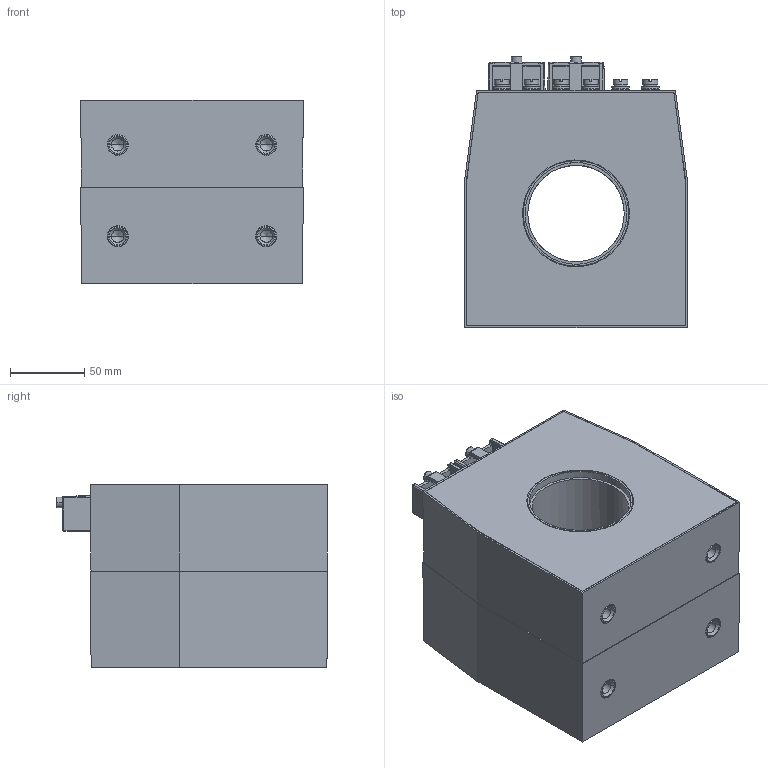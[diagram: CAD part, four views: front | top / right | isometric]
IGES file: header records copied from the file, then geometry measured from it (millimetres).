
Start section: IGES file generated from Kompas f.0 for Windows drawing by the IGES translator from Ascon Ltd., translator version IGESOUT-5.1.
Global section: file name: C:\Ðàáîòà\Èçâåùåíèÿ 5\ÒØÏ-ÍÒÇ-0.66-61...,71...,81... (ñáîðíûé)\Âåðñèÿ îò 21.05.24\3D ìîäåëü\ÒØÏ-ÍÒÇ-0,66-82À\ÒØÏ-ÍÒÇ-0,66-82À (65 ìì, 2-é ãàáàðèò).igs; native system: Kompas( 32 bit ) for Windows; preprocessor: 1.0; author: 123; organization: Microsoft; date: -17750727:094512; units: millimetre
Bounding box: 150 x 182.93 x 123.5 mm (x, y, z)
Volume: 507766.9 mm3; surface area: 327121.8 mm2
Topology: 39 solids, 39 shells, 778 faces, 1789 edges, 1095 vertices
Faces by surface type: revolution 462, bspline 316
